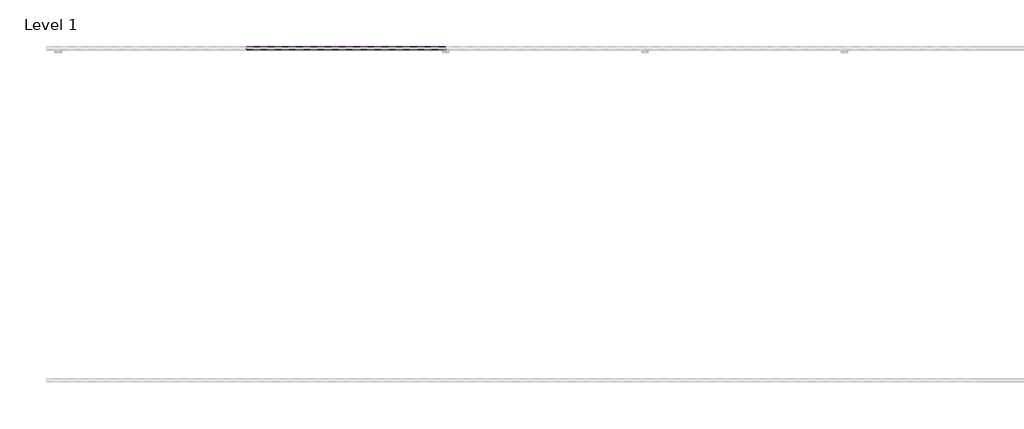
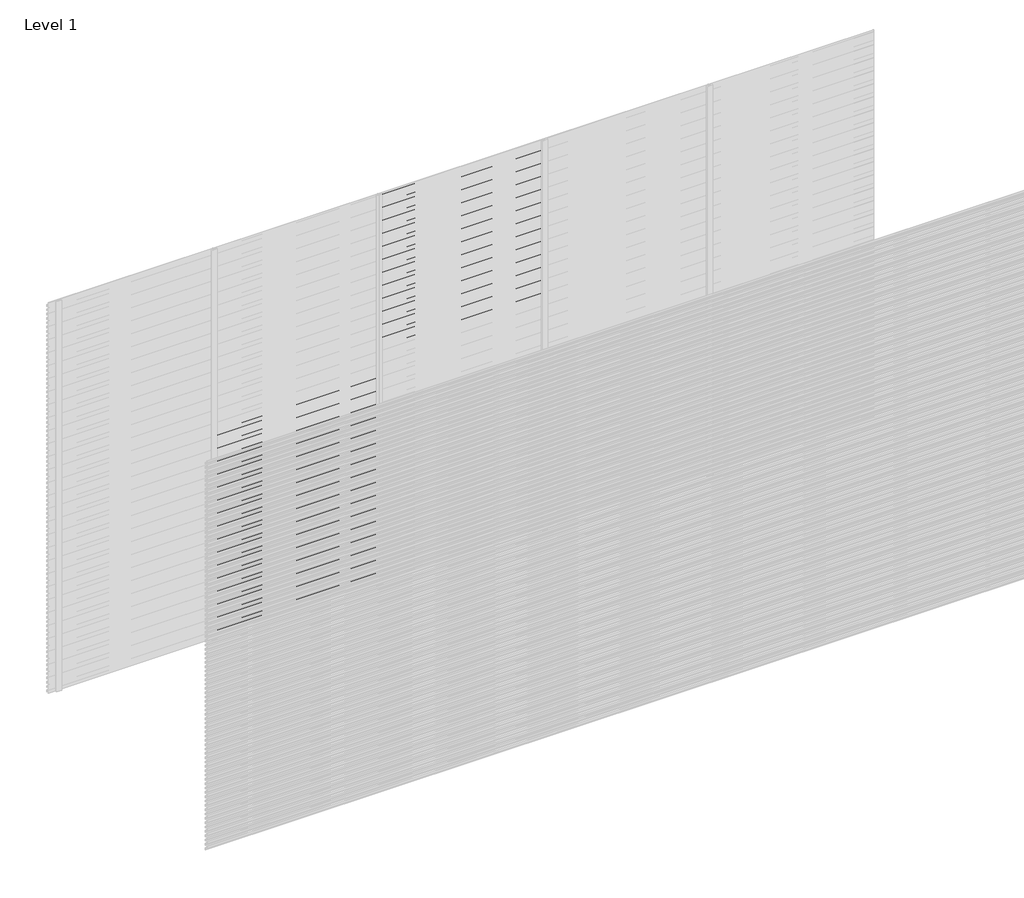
# One storey, part 56 of 507: 84 proxies.
"""IFC4 building model written with IfcOpenShell, lengths in millimetres."""

import ifcopenshell
import ifcopenshell.guid

model = None  # the IFC model being written
_history = None  # IfcOwnerHistory: only IFC2X3 demands one
_inside = {}  # id of a spatial element -> (the spatial element, [elements in it])
_under = {}  # id of a project, library or spatial element -> (it, [spatial elements below it])
_declared = {}  # id of a project -> (the project, [libraries it declares])
_typed = {}  # id of a type object -> (the type object, [elements of that type])
_made_of = {}  # id of a material, layer set ... -> (it, [elements and type objects made of it])


def new_model(schema):
    """Start an empty IFC model of exactly this schema.

    Asked for "IFC4X3", IfcOpenShell would pick the latest addendum, in which some entities
    have other attributes; the version numbers below select the first issue.
    IFC2X3 requires an IfcOwnerHistory on every rooted entity: one is made here for all.
    """
    global model, _history
    if schema == "IFC4X3":
        model = ifcopenshell.file(schema_version=(4, 3, 0, 0))
    else:
        model = ifcopenshell.file(schema=schema)
    _inside.clear()
    _under.clear()
    _declared.clear()
    _typed.clear()
    _made_of.clear()
    _history = None
    if model.schema == "IFC2X3":
        org = make("IfcOrganization", Name="unknown")
        user = make(
            "IfcPersonAndOrganization",
            ThePerson=make("IfcPerson", FamilyName="unknown"),
            TheOrganization=org,
        )
        app = make(
            "IfcApplication",
            ApplicationDeveloper=org,
            Version="unknown",
            ApplicationFullName="unknown",
            ApplicationIdentifier="unknown",
        )
        _history = make(
            "IfcOwnerHistory",
            OwningUser=user,
            OwningApplication=app,
            ChangeAction="ADDED",
            CreationDate=0,
        )
    return model


def make(cls, **values):
    """One entity of the class cls with the attributes given. An attribute that is None is left unset."""
    return model.create_entity(
        cls, **{name: value for name, value in values.items() if value is not None}
    )


def rooted(cls, **values):
    """An entity with a GlobalId (a new one), such as an element, a storey or a relation."""
    return make(cls, GlobalId=ifcopenshell.guid.new(), OwnerHistory=_history, **values)


def si_unit(unit_type, name, prefix=None):
    """IfcSIUnit, for example si_unit("LENGTHUNIT", "METRE", prefix="MILLI")."""
    return make("IfcSIUnit", UnitType=unit_type, Prefix=prefix, Name=name)


def assignment(units):
    """IfcUnitAssignment: the units of a project."""
    return None if units is None else make("IfcUnitAssignment", Units=units)


def point(xyz):
    """IfcCartesianPoint."""
    return None if xyz is None else make("IfcCartesianPoint", Coordinates=xyz)


def direction(xyz):
    """IfcDirection."""
    return None if xyz is None else make("IfcDirection", DirectionRatios=xyz)


def frame(location, z_axis=None, x_axis=None):
    """IfcAxis2Placement3D, a coordinate frame: its origin and axes. An axis left out is left unset."""
    return make(
        "IfcAxis2Placement3D",
        Location=point(location),
        Axis=direction(z_axis),
        RefDirection=direction(x_axis),
    )


def origin():
    """The frame at (0, 0, 0) with its axes left unset."""
    return frame((0.0, 0.0, 0.0))


def place(relative_to, where):
    """IfcLocalPlacement: puts the frame where relative to a parent placement (None: the world)."""
    return make(
        "IfcLocalPlacement", PlacementRelTo=relative_to, RelativePlacement=where
    )


def context(
    kind, dimensions, precision=None, world=None, true_north=None, identifier=None
):
    """IfcGeometricRepresentationContext, for example the 3D "Model" context."""
    return make(
        "IfcGeometricRepresentationContext",
        ContextIdentifier=identifier,
        ContextType=kind,
        CoordinateSpaceDimension=dimensions,
        Precision=precision,
        WorldCoordinateSystem=world,
        TrueNorth=true_north,
    )


def project(units=None, contexts=None):
    """IfcProject with its units and contexts."""
    return rooted(
        "IfcProject",
        Name="project",
        RepresentationContexts=contexts,
        UnitsInContext=assignment(units),
    )


def spatial(cls, under=None, at=None, **own):
    """A site, building, storey or space (cls), placed at a placement, below another one or the project."""
    s = rooted(cls, ObjectPlacement=at, **own)
    if under is not None:
        _under.setdefault(under.id(), (under, []))[1].append(s)
    return s


def polyline(points):
    """IfcPolyline through the points."""
    return make("IfcPolyline", Points=[point(p) for p in points])


def outline(outer, holes=None, kind="AREA"):
    """IfcArbitraryClosedProfileDef: a profile drawn as a closed curve; with holes, ...WithVoids."""
    if holes is None:
        return make("IfcArbitraryClosedProfileDef", ProfileType=kind, OuterCurve=outer)
    return make(
        "IfcArbitraryProfileDefWithVoids",
        ProfileType=kind,
        OuterCurve=outer,
        InnerCurves=holes,
    )


def extrude(swept, where, along, depth):
    """IfcExtrudedAreaSolid: the profile swept, set in the frame where, extruded along a direction by depth."""
    return make(
        "IfcExtrudedAreaSolid",
        SweptArea=swept,
        Position=where,
        ExtrudedDirection=direction(along),
        Depth=depth,
    )


def shape(context_of_items, identifier, shape_type, items):
    """IfcShapeRepresentation: the items that make up one representation, for example the "Body"."""
    return make(
        "IfcShapeRepresentation",
        ContextOfItems=context_of_items,
        RepresentationIdentifier=identifier,
        RepresentationType=shape_type,
        Items=items,
    )


def made_of(thing, what):
    """Note that an element or type object is made of a material, layer set ...; save() writes the relation."""
    if what is not None:
        _made_of.setdefault(what.id(), (what, []))[1].append(thing)
    return thing


def element(
    cls,
    number,
    at=None,
    inside=None,
    cuts=None,
    type_object=None,
    material=None,
    context=None,
    identifier="Body",
    shape_type=None,
    held_by="IfcProductDefinitionShape",
    body=None,
    shapes=None,
    **own,
):
    """One element of the class cls, such as IfcWall. Its Tag is "e" and its number.

    at: its placement. inside: the storey or other place that contains it. cuts: it is an
    opening in that element (IfcRelVoidsElement). A single representation is given by context,
    identifier, shape_type and body (its items); several are given by shapes. held_by: the class
    of the entity that holds the representations. save() writes the other relations.
    """
    e = rooted(cls, Tag="e%d" % number, ObjectPlacement=at, **own)
    if body is not None:
        shapes = [shape(context, identifier, shape_type, body)]
    if shapes is not None:
        e.Representation = make(held_by, Representations=shapes)
    if inside is not None:
        _inside.setdefault(inside.id(), (inside, []))[1].append(e)
    if cuts is not None:
        rooted(
            "IfcRelVoidsElement", RelatingBuildingElement=cuts, RelatedOpeningElement=e
        )
    if type_object is not None:
        _typed.setdefault(type_object.id(), (type_object, []))[1].append(e)
    return made_of(e, material)


def aggregate(whole, parts):
    """IfcRelAggregates: a whole, such as a stair, and the parts it consists of."""
    return rooted("IfcRelAggregates", RelatingObject=whole, RelatedObjects=parts)


def save(model, path):
    """Write the relations noted so far, then the file.

    IfcRelAggregates (storeys below a building ...), IfcRelContainedInSpatialStructure (elements
    in a storey), IfcRelDefinesByType, IfcRelAssociatesMaterial and IfcRelDeclares: one each for
    every whole, place, type object, material and project.
    """
    for whole, parts in _under.values():
        aggregate(whole, parts)
    for where, things in _inside.values():
        rooted(
            "IfcRelContainedInSpatialStructure",
            RelatedElements=things,
            RelatingStructure=where,
        )
    for kind, things in _typed.values():
        rooted("IfcRelDefinesByType", RelatedObjects=things, RelatingType=kind)
    for what, things in _made_of.values():
        rooted("IfcRelAssociatesMaterial", RelatedObjects=things, RelatingMaterial=what)
    for by, libraries in _declared.values():
        rooted("IfcRelDeclares", RelatingContext=by, RelatedDefinitions=libraries)
    model.write(path)


model = new_model("IFC4")

# Units and contexts
model_context = context("Model", 3, world=origin())
ifc_project = project(units=[si_unit("LENGTHUNIT", "METRE", prefix="MILLI")], contexts=[model_context])

# Site, building, storey
site = spatial("IfcSite", under=ifc_project)
building = spatial("IfcBuilding", under=site)
storey = spatial("IfcBuildingStorey", under=building, Name="Level 1", Elevation=0.0)

# Proxies
placement = place(None, origin())
element("IfcBuildingElementProxy", 1, Name="Wall Sweeps", at=placement, inside=storey, context=model_context, shape_type="SweptSolid", body=[
    extrude(outline(polyline([(44003.4540136, 1574.4), (44003.4540136, 1560.9), (44002.2040136, 1561.6216933), (44002.2040136, 1573.6782281), (43983.0540136, 1584.7345698), (43983.0540136, 1598.4), (43984.3040136, 1598.4), (43984.3040136, 1585.4562577), (44003.4540136, 1574.4)])), frame((46166.6208099, 0.0, 0.0), z_axis=(1.0, 0.0, 0.0), x_axis=(0.0, 1.0, 0.0)), (0.0, 0.0, 1.0), 1199.9999999),
])
element("IfcBuildingElementProxy", 2, Name="Wall Sweeps", at=placement, inside=storey, context=model_context, shape_type="SweptSolid", body=[
    extrude(outline(polyline([(44003.4540136, 1541.1), (44003.4540136, 1527.6), (44002.2040136, 1528.3216933), (44002.2040136, 1540.3782281), (43983.0540136, 1551.4345698), (43983.0540136, 1565.1), (43984.3040136, 1565.1), (43984.3040136, 1552.1562577), (44003.4540136, 1541.1)])), frame((46166.6208099, 0.0, 0.0), z_axis=(1.0, 0.0, 0.0), x_axis=(0.0, 1.0, 0.0)), (0.0, 0.0, 1.0), 1199.9999999),
])
element("IfcBuildingElementProxy", 3, Name="Wall Sweeps", at=placement, inside=storey, context=model_context, shape_type="SweptSolid", body=[
    extrude(outline(polyline([(44003.4540136, 1507.8), (44003.4540136, 1494.3), (44002.2040136, 1495.0216933), (44002.2040136, 1507.0782281), (43983.0540136, 1518.1345698), (43983.0540136, 1531.8), (43984.3040136, 1531.8), (43984.3040136, 1518.8562577), (44003.4540136, 1507.8)])), frame((46166.6208099, 0.0, 0.0), z_axis=(1.0, 0.0, 0.0), x_axis=(0.0, 1.0, 0.0)), (0.0, 0.0, 1.0), 1199.9999999),
])
element("IfcBuildingElementProxy", 4, Name="Wall Sweeps", at=placement, inside=storey, context=model_context, shape_type="SweptSolid", body=[
    extrude(outline(polyline([(44003.4540136, 1474.5), (44003.4540136, 1461.0), (44002.2040136, 1461.7216933), (44002.2040136, 1473.7782281), (43983.0540136, 1484.8345698), (43983.0540136, 1498.5), (43984.3040136, 1498.5), (43984.3040136, 1485.5562577), (44003.4540136, 1474.5)])), frame((46166.6208099, 0.0, 0.0), z_axis=(1.0, 0.0, 0.0), x_axis=(0.0, 1.0, 0.0)), (0.0, 0.0, 1.0), 1199.9999999),
])
element("IfcBuildingElementProxy", 5, Name="Wall Sweeps", at=placement, inside=storey, context=model_context, shape_type="SweptSolid", body=[
    extrude(outline(polyline([(44003.4540136, 1441.2), (44003.4540136, 1427.7), (44002.2040136, 1428.4216933), (44002.2040136, 1440.4782281), (43983.0540136, 1451.5345698), (43983.0540136, 1465.2), (43984.3040136, 1465.2), (43984.3040136, 1452.2562577), (44003.4540136, 1441.2)])), frame((46166.6208099, 0.0, 0.0), z_axis=(1.0, 0.0, 0.0), x_axis=(0.0, 1.0, 0.0)), (0.0, 0.0, 1.0), 1199.9999999),
])
element("IfcBuildingElementProxy", 6, Name="Wall Sweeps", at=placement, inside=storey, context=model_context, shape_type="SweptSolid", body=[
    extrude(outline(polyline([(44003.4540136, 1407.9), (44003.4540136, 1394.4), (44002.2040136, 1395.1216933), (44002.2040136, 1407.1782281), (43983.0540136, 1418.2345698), (43983.0540136, 1431.9), (43984.3040136, 1431.9), (43984.3040136, 1418.9562577), (44003.4540136, 1407.9)])), frame((46166.6208099, 0.0, 0.0), z_axis=(1.0, 0.0, 0.0), x_axis=(0.0, 1.0, 0.0)), (0.0, 0.0, 1.0), 1199.9999999),
])
element("IfcBuildingElementProxy", 7, Name="Wall Sweeps", at=placement, inside=storey, context=model_context, shape_type="SweptSolid", body=[
    extrude(outline(polyline([(44003.4540136, 1374.6), (44003.4540136, 1361.1), (44002.2040136, 1361.8216933), (44002.2040136, 1373.8782281), (43983.0540136, 1384.9345698), (43983.0540136, 1398.6), (43984.3040136, 1398.6), (43984.3040136, 1385.6562577), (44003.4540136, 1374.6)])), frame((46166.6208099, 0.0, 0.0), z_axis=(1.0, 0.0, 0.0), x_axis=(0.0, 1.0, 0.0)), (0.0, 0.0, 1.0), 1199.9999999),
])
element("IfcBuildingElementProxy", 8, Name="Wall Sweeps", at=placement, inside=storey, context=model_context, shape_type="SweptSolid", body=[
    extrude(outline(polyline([(44003.4540136, 1341.3), (44003.4540136, 1327.8), (44002.2040136, 1328.5216933), (44002.2040136, 1340.5782281), (43983.0540136, 1351.6345698), (43983.0540136, 1365.3), (43984.3040136, 1365.3), (43984.3040136, 1352.3562577), (44003.4540136, 1341.3)])), frame((46166.6208099, 0.0, 0.0), z_axis=(1.0, 0.0, 0.0), x_axis=(0.0, 1.0, 0.0)), (0.0, 0.0, 1.0), 1199.9999999),
])
element("IfcBuildingElementProxy", 9, Name="Wall Sweeps", at=placement, inside=storey, context=model_context, shape_type="SweptSolid", body=[
    extrude(outline(polyline([(44003.4540136, 1308.0), (44003.4540136, 1294.5), (44002.2040136, 1295.2216933), (44002.2040136, 1307.2782281), (43983.0540136, 1318.3345698), (43983.0540136, 1332.0), (43984.3040136, 1332.0), (43984.3040136, 1319.0562577), (44003.4540136, 1308.0)])), frame((46166.6208099, 0.0, 0.0), z_axis=(1.0, 0.0, 0.0), x_axis=(0.0, 1.0, 0.0)), (0.0, 0.0, 1.0), 1199.9999999),
])
element("IfcBuildingElementProxy", 10, Name="Wall Sweeps", at=placement, inside=storey, context=model_context, shape_type="SweptSolid", body=[
    extrude(outline(polyline([(44003.4540136, 1274.7), (44003.4540136, 1261.2), (44002.2040136, 1261.9216933), (44002.2040136, 1273.9782281), (43983.0540136, 1285.0345698), (43983.0540136, 1298.7), (43984.3040136, 1298.7), (43984.3040136, 1285.7562577), (44003.4540136, 1274.7)])), frame((46166.6208099, 0.0, 0.0), z_axis=(1.0, 0.0, 0.0), x_axis=(0.0, 1.0, 0.0)), (0.0, 0.0, 1.0), 1199.9999999),
])
element("IfcBuildingElementProxy", 11, Name="Wall Sweeps", at=placement, inside=storey, context=model_context, shape_type="SweptSolid", body=[
    extrude(outline(polyline([(44003.4540136, 1241.4), (44003.4540136, 1227.9), (44002.2040136, 1228.6216933), (44002.2040136, 1240.6782281), (43983.0540136, 1251.7345698), (43983.0540136, 1265.4), (43984.3040136, 1265.4), (43984.3040136, 1252.4562577), (44003.4540136, 1241.4)])), frame((46166.6208099, 0.0, 0.0), z_axis=(1.0, 0.0, 0.0), x_axis=(0.0, 1.0, 0.0)), (0.0, 0.0, 1.0), 1199.9999999),
])
element("IfcBuildingElementProxy", 12, Name="Wall Sweeps", at=placement, inside=storey, context=model_context, shape_type="SweptSolid", body=[
    extrude(outline(polyline([(44003.4540136, 1208.1), (44003.4540136, 1194.6), (44002.2040136, 1195.3216933), (44002.2040136, 1207.3782281), (43983.0540136, 1218.4345698), (43983.0540136, 1232.1), (43984.3040136, 1232.1), (43984.3040136, 1219.1562577), (44003.4540136, 1208.1)])), frame((46166.6208099, 0.0, 0.0), z_axis=(1.0, 0.0, 0.0), x_axis=(0.0, 1.0, 0.0)), (0.0, 0.0, 1.0), 1199.9999999),
])
element("IfcBuildingElementProxy", 13, Name="Wall Sweeps", at=placement, inside=storey, context=model_context, shape_type="SweptSolid", body=[
    extrude(outline(polyline([(44003.4540136, 1174.8), (44003.4540136, 1161.3), (44002.2040136, 1162.0216933), (44002.2040136, 1174.0782281), (43983.0540136, 1185.1345698), (43983.0540136, 1198.8), (43984.3040136, 1198.8), (43984.3040136, 1185.8562577), (44003.4540136, 1174.8)])), frame((46166.6208099, 0.0, 0.0), z_axis=(1.0, 0.0, 0.0), x_axis=(0.0, 1.0, 0.0)), (0.0, 0.0, 1.0), 1199.9999999),
])
element("IfcBuildingElementProxy", 14, Name="Wall Sweeps", at=placement, inside=storey, context=model_context, shape_type="SweptSolid", body=[
    extrude(outline(polyline([(44003.4540136, 1141.5), (44003.4540136, 1128.0), (44002.2040136, 1128.7216933), (44002.2040136, 1140.7782281), (43983.0540136, 1151.8345698), (43983.0540136, 1165.5), (43984.3040136, 1165.5), (43984.3040136, 1152.5562577), (44003.4540136, 1141.5)])), frame((46166.6208099, 0.0, 0.0), z_axis=(1.0, 0.0, 0.0), x_axis=(0.0, 1.0, 0.0)), (0.0, 0.0, 1.0), 1199.9999999),
])
element("IfcBuildingElementProxy", 15, Name="Wall Sweeps", at=placement, inside=storey, context=model_context, shape_type="SweptSolid", body=[
    extrude(outline(polyline([(44003.4540136, 1108.2), (44003.4540136, 1094.7), (44002.2040136, 1095.4216933), (44002.2040136, 1107.4782281), (43983.0540136, 1118.5345698), (43983.0540136, 1132.2), (43984.3040136, 1132.2), (43984.3040136, 1119.2562577), (44003.4540136, 1108.2)])), frame((46166.6208099, 0.0, 0.0), z_axis=(1.0, 0.0, 0.0), x_axis=(0.0, 1.0, 0.0)), (0.0, 0.0, 1.0), 1199.9999999),
])
element("IfcBuildingElementProxy", 16, Name="Wall Sweeps", at=placement, inside=storey, context=model_context, shape_type="SweptSolid", body=[
    extrude(outline(polyline([(44003.4540136, 1074.9), (44003.4540136, 1061.4), (44002.2040136, 1062.1216933), (44002.2040136, 1074.1782281), (43983.0540136, 1085.2345698), (43983.0540136, 1098.9), (43984.3040136, 1098.9), (43984.3040136, 1085.9562577), (44003.4540136, 1074.9)])), frame((46166.6208099, 0.0, 0.0), z_axis=(1.0, 0.0, 0.0), x_axis=(0.0, 1.0, 0.0)), (0.0, 0.0, 1.0), 1199.9999999),
])
element("IfcBuildingElementProxy", 17, Name="Wall Sweeps", at=placement, inside=storey, context=model_context, shape_type="SweptSolid", body=[
    extrude(outline(polyline([(44003.4540136, 1041.6), (44003.4540136, 1028.1), (44002.2040136, 1028.8216933), (44002.2040136, 1040.8782281), (43983.0540136, 1051.9345698), (43983.0540136, 1065.6), (43984.3040136, 1065.6), (43984.3040136, 1052.6562577), (44003.4540136, 1041.6)])), frame((46166.6208099, 0.0, 0.0), z_axis=(1.0, 0.0, 0.0), x_axis=(0.0, 1.0, 0.0)), (0.0, 0.0, 1.0), 1199.9999999),
])
element("IfcBuildingElementProxy", 18, Name="Wall Sweeps", at=placement, inside=storey, context=model_context, shape_type="SweptSolid", body=[
    extrude(outline(polyline([(44003.4540136, 1008.3), (44003.4540136, 994.8), (44002.2040136, 995.5216933), (44002.2040136, 1007.5782281), (43983.0540136, 1018.6345698), (43983.0540136, 1032.3), (43984.3040136, 1032.3), (43984.3040136, 1019.3562577), (44003.4540136, 1008.3)])), frame((46166.6208099, 0.0, 0.0), z_axis=(1.0, 0.0, 0.0), x_axis=(0.0, 1.0, 0.0)), (0.0, 0.0, 1.0), 1199.9999999),
])
element("IfcBuildingElementProxy", 19, Name="Wall Sweeps", at=placement, inside=storey, context=model_context, shape_type="SweptSolid", body=[
    extrude(outline(polyline([(44003.4540136, 975.0), (44003.4540136, 961.5), (44002.2040136, 962.2216933), (44002.2040136, 974.2782281), (43983.0540136, 985.3345698), (43983.0540136, 999.0), (43984.3040136, 999.0), (43984.3040136, 986.0562577), (44003.4540136, 975.0)])), frame((46166.6208099, 0.0, 0.0), z_axis=(1.0, 0.0, 0.0), x_axis=(0.0, 1.0, 0.0)), (0.0, 0.0, 1.0), 1199.9999999),
])
element("IfcBuildingElementProxy", 20, Name="Wall Sweeps", at=placement, inside=storey, context=model_context, shape_type="SweptSolid", body=[
    extrude(outline(polyline([(44003.4540136, 941.7), (44003.4540136, 928.2), (44002.2040136, 928.9216933), (44002.2040136, 940.9782281), (43983.0540136, 952.0345698), (43983.0540136, 965.7), (43984.3040136, 965.7), (43984.3040136, 952.7562577), (44003.4540136, 941.7)])), frame((46166.6208099, 0.0, 0.0), z_axis=(1.0, 0.0, 0.0), x_axis=(0.0, 1.0, 0.0)), (0.0, 0.0, 1.0), 1199.9999999),
])
element("IfcBuildingElementProxy", 21, Name="Wall Sweeps", at=placement, inside=storey, context=model_context, shape_type="SweptSolid", body=[
    extrude(outline(polyline([(44003.4540136, 908.4), (44003.4540136, 894.9), (44002.2040136, 895.6216933), (44002.2040136, 907.6782281), (43983.0540136, 918.7345698), (43983.0540136, 932.4), (43984.3040136, 932.4), (43984.3040136, 919.4562577), (44003.4540136, 908.4)])), frame((46166.6208099, 0.0, 0.0), z_axis=(1.0, 0.0, 0.0), x_axis=(0.0, 1.0, 0.0)), (0.0, 0.0, 1.0), 1199.9999999),
])
element("IfcBuildingElementProxy", 22, Name="Wall Sweeps", at=placement, inside=storey, context=model_context, shape_type="SweptSolid", body=[
    extrude(outline(polyline([(44003.4540136, 875.1), (44003.4540136, 861.6), (44002.2040136, 862.3216933), (44002.2040136, 874.3782281), (43983.0540136, 885.4345698), (43983.0540136, 899.1), (43984.3040136, 899.1), (43984.3040136, 886.1562577), (44003.4540136, 875.1)])), frame((46166.6208099, 0.0, 0.0), z_axis=(1.0, 0.0, 0.0), x_axis=(0.0, 1.0, 0.0)), (0.0, 0.0, 1.0), 1199.9999999),
])
element("IfcBuildingElementProxy", 23, Name="Wall Sweeps", at=placement, inside=storey, context=model_context, shape_type="SweptSolid", body=[
    extrude(outline(polyline([(44003.4540136, 841.8), (44003.4540136, 828.3), (44002.2040136, 829.0216933), (44002.2040136, 841.0782281), (43983.0540136, 852.1345698), (43983.0540136, 865.8), (43984.3040136, 865.8), (43984.3040136, 852.8562577), (44003.4540136, 841.8)])), frame((46166.6208099, 0.0, 0.0), z_axis=(1.0, 0.0, 0.0), x_axis=(0.0, 1.0, 0.0)), (0.0, 0.0, 1.0), 1199.9999999),
])
element("IfcBuildingElementProxy", 24, Name="Wall Sweeps", at=placement, inside=storey, context=model_context, shape_type="SweptSolid", body=[
    extrude(outline(polyline([(44003.4540136, 808.5), (44003.4540136, 795.0), (44002.2040136, 795.7216933), (44002.2040136, 807.7782281), (43983.0540136, 818.8345698), (43983.0540136, 832.5), (43984.3040136, 832.5), (43984.3040136, 819.5562577), (44003.4540136, 808.5)])), frame((46166.6208099, 0.0, 0.0), z_axis=(1.0, 0.0, 0.0), x_axis=(0.0, 1.0, 0.0)), (0.0, 0.0, 1.0), 1199.9999999),
])
element("IfcBuildingElementProxy", 25, Name="Wall Sweeps", at=placement, inside=storey, context=model_context, shape_type="SweptSolid", body=[
    extrude(outline(polyline([(44003.4540136, 775.2), (44003.4540136, 761.7), (44002.2040136, 762.4216933), (44002.2040136, 774.4782281), (43983.0540136, 785.5345698), (43983.0540136, 799.2), (43984.3040136, 799.2), (43984.3040136, 786.2562577), (44003.4540136, 775.2)])), frame((46166.6208099, 0.0, 0.0), z_axis=(1.0, 0.0, 0.0), x_axis=(0.0, 1.0, 0.0)), (0.0, 0.0, 1.0), 1199.9999999),
])
element("IfcBuildingElementProxy", 26, Name="Wall Sweeps", at=placement, inside=storey, context=model_context, shape_type="SweptSolid", body=[
    extrude(outline(polyline([(44003.4540136, 741.9), (44003.4540136, 728.4), (44002.2040136, 729.1216933), (44002.2040136, 741.1782281), (43983.0540136, 752.2345698), (43983.0540136, 765.9), (43984.3040136, 765.9), (43984.3040136, 752.9562577), (44003.4540136, 741.9)])), frame((46166.6208099, 0.0, 0.0), z_axis=(1.0, 0.0, 0.0), x_axis=(0.0, 1.0, 0.0)), (0.0, 0.0, 1.0), 1199.9999999),
])
element("IfcBuildingElementProxy", 27, Name="Wall Sweeps", at=placement, inside=storey, context=model_context, shape_type="SweptSolid", body=[
    extrude(outline(polyline([(44003.4540136, 708.6), (44003.4540136, 695.1), (44002.2040136, 695.8216933), (44002.2040136, 707.8782281), (43983.0540136, 718.9345698), (43983.0540136, 732.6), (43984.3040136, 732.6), (43984.3040136, 719.6562577), (44003.4540136, 708.6)])), frame((46166.6208099, 0.0, 0.0), z_axis=(1.0, 0.0, 0.0), x_axis=(0.0, 1.0, 0.0)), (0.0, 0.0, 1.0), 1199.9999999),
])
element("IfcBuildingElementProxy", 28, Name="Wall Sweeps", at=placement, inside=storey, context=model_context, shape_type="SweptSolid", body=[
    extrude(outline(polyline([(44003.4540136, 675.3), (44003.4540136, 661.8), (44002.2040136, 662.5216933), (44002.2040136, 674.5782281), (43983.0540136, 685.6345698), (43983.0540136, 699.3), (43984.3040136, 699.3), (43984.3040136, 686.3562577), (44003.4540136, 675.3)])), frame((46166.6208099, 0.0, 0.0), z_axis=(1.0, 0.0, 0.0), x_axis=(0.0, 1.0, 0.0)), (0.0, 0.0, 1.0), 1199.9999999),
])
element("IfcBuildingElementProxy", 29, Name="Wall Sweeps", at=placement, inside=storey, context=model_context, shape_type="SweptSolid", body=[
    extrude(outline(polyline([(44003.4540136, 642.0), (44003.4540136, 628.5), (44002.2040136, 629.2216933), (44002.2040136, 641.2782281), (43983.0540136, 652.3345698), (43983.0540136, 666.0), (43984.3040136, 666.0), (43984.3040136, 653.0562577), (44003.4540136, 642.0)])), frame((46166.6208099, 0.0, 0.0), z_axis=(1.0, 0.0, 0.0), x_axis=(0.0, 1.0, 0.0)), (0.0, 0.0, 1.0), 1199.9999999),
])
element("IfcBuildingElementProxy", 30, Name="Wall Sweeps", at=placement, inside=storey, context=model_context, shape_type="SweptSolid", body=[
    extrude(outline(polyline([(44003.4540136, 608.7), (44003.4540136, 595.2), (44002.2040136, 595.9216933), (44002.2040136, 607.9782281), (43983.0540136, 619.0345698), (43983.0540136, 632.7), (43984.3040136, 632.7), (43984.3040136, 619.7562577), (44003.4540136, 608.7)])), frame((46166.6208099, 0.0, 0.0), z_axis=(1.0, 0.0, 0.0), x_axis=(0.0, 1.0, 0.0)), (0.0, 0.0, 1.0), 1199.9999999),
])
element("IfcBuildingElementProxy", 31, Name="Wall Sweeps", at=placement, inside=storey, context=model_context, shape_type="SweptSolid", body=[
    extrude(outline(polyline([(44003.4540136, 575.4), (44003.4540136, 561.9), (44002.2040136, 562.6216933), (44002.2040136, 574.6782281), (43983.0540136, 585.7345698), (43983.0540136, 599.4), (43984.3040136, 599.4), (43984.3040136, 586.4562577), (44003.4540136, 575.4)])), frame((46166.6208099, 0.0, 0.0), z_axis=(1.0, 0.0, 0.0), x_axis=(0.0, 1.0, 0.0)), (0.0, 0.0, 1.0), 1199.9999999),
])
element("IfcBuildingElementProxy", 32, Name="Wall Sweeps", at=placement, inside=storey, context=model_context, shape_type="SweptSolid", body=[
    extrude(outline(polyline([(44003.4540136, 542.1), (44003.4540136, 528.6), (44002.2040136, 529.3216933), (44002.2040136, 541.3782281), (43983.0540136, 552.4345698), (43983.0540136, 566.1), (43984.3040136, 566.1), (43984.3040136, 553.1562577), (44003.4540136, 542.1)])), frame((46166.6208099, 0.0, 0.0), z_axis=(1.0, 0.0, 0.0), x_axis=(0.0, 1.0, 0.0)), (0.0, 0.0, 1.0), 1199.9999999),
])
element("IfcBuildingElementProxy", 33, Name="Wall Sweeps", at=placement, inside=storey, context=model_context, shape_type="SweptSolid", body=[
    extrude(outline(polyline([(44003.4540136, 508.8), (44003.4540136, 495.3), (44002.2040136, 496.0216933), (44002.2040136, 508.0782281), (43983.0540136, 519.1345698), (43983.0540136, 532.8), (43984.3040136, 532.8), (43984.3040136, 519.8562577), (44003.4540136, 508.8)])), frame((46166.6208099, 0.0, 0.0), z_axis=(1.0, 0.0, 0.0), x_axis=(0.0, 1.0, 0.0)), (0.0, 0.0, 1.0), 1199.9999999),
])
element("IfcBuildingElementProxy", 34, Name="Wall Sweeps", at=placement, inside=storey, context=model_context, shape_type="SweptSolid", body=[
    extrude(outline(polyline([(44003.4540136, 475.5), (44003.4540136, 462.0), (44002.2040136, 462.7216933), (44002.2040136, 474.7782281), (43983.0540136, 485.8345698), (43983.0540136, 499.5), (43984.3040136, 499.5), (43984.3040136, 486.5562577), (44003.4540136, 475.5)])), frame((46166.6208099, 0.0, 0.0), z_axis=(1.0, 0.0, 0.0), x_axis=(0.0, 1.0, 0.0)), (0.0, 0.0, 1.0), 1199.9999999),
])
element("IfcBuildingElementProxy", 35, Name="Wall Sweeps", at=placement, inside=storey, context=model_context, shape_type="SweptSolid", body=[
    extrude(outline(polyline([(44003.4540136, 442.2), (44003.4540136, 428.7), (44002.2040136, 429.4216933), (44002.2040136, 441.4782281), (43983.0540136, 452.5345698), (43983.0540136, 466.2), (43984.3040136, 466.2), (43984.3040136, 453.2562577), (44003.4540136, 442.2)])), frame((46166.6208099, 0.0, 0.0), z_axis=(1.0, 0.0, 0.0), x_axis=(0.0, 1.0, 0.0)), (0.0, 0.0, 1.0), 1199.9999999),
])
element("IfcBuildingElementProxy", 36, Name="Wall Sweeps", at=placement, inside=storey, context=model_context, shape_type="SweptSolid", body=[
    extrude(outline(polyline([(44003.4540136, 408.9), (44003.4540136, 395.4), (44002.2040136, 396.1216933), (44002.2040136, 408.1782281), (43983.0540136, 419.2345698), (43983.0540136, 432.9), (43984.3040136, 432.9), (43984.3040136, 419.9562577), (44003.4540136, 408.9)])), frame((46166.6208099, 0.0, 0.0), z_axis=(1.0, 0.0, 0.0), x_axis=(0.0, 1.0, 0.0)), (0.0, 0.0, 1.0), 1199.9999999),
])
element("IfcBuildingElementProxy", 37, Name="Wall Sweeps", at=placement, inside=storey, context=model_context, shape_type="SweptSolid", body=[
    extrude(outline(polyline([(44003.4540136, 375.6), (44003.4540136, 362.1), (44002.2040136, 362.8216933), (44002.2040136, 374.8782281), (43983.0540136, 385.9345698), (43983.0540136, 399.6), (43984.3040136, 399.6), (43984.3040136, 386.6562577), (44003.4540136, 375.6)])), frame((46166.6208099, 0.0, 0.0), z_axis=(1.0, 0.0, 0.0), x_axis=(0.0, 1.0, 0.0)), (0.0, 0.0, 1.0), 1199.9999999),
])
element("IfcBuildingElementProxy", 38, Name="Wall Sweeps", at=placement, inside=storey, context=model_context, shape_type="SweptSolid", body=[
    extrude(outline(polyline([(44003.4540136, 342.3), (44003.4540136, 328.8), (44002.2040136, 329.5216933), (44002.2040136, 341.5782281), (43983.0540136, 352.6345698), (43983.0540136, 366.3), (43984.3040136, 366.3), (43984.3040136, 353.3562577), (44003.4540136, 342.3)])), frame((46166.6208099, 0.0, 0.0), z_axis=(1.0, 0.0, 0.0), x_axis=(0.0, 1.0, 0.0)), (0.0, 0.0, 1.0), 1199.9999999),
])
element("IfcBuildingElementProxy", 39, Name="Wall Sweeps", at=placement, inside=storey, context=model_context, shape_type="SweptSolid", body=[
    extrude(outline(polyline([(44003.4540136, 309.0), (44003.4540136, 295.5), (44002.2040136, 296.2216933), (44002.2040136, 308.2782281), (43983.0540136, 319.3345698), (43983.0540136, 333.0), (43984.3040136, 333.0), (43984.3040136, 320.0562577), (44003.4540136, 309.0)])), frame((46166.6208099, 0.0, 0.0), z_axis=(1.0, 0.0, 0.0), x_axis=(0.0, 1.0, 0.0)), (0.0, 0.0, 1.0), 1199.9999999),
])
element("IfcBuildingElementProxy", 40, Name="Wall Sweeps", at=placement, inside=storey, context=model_context, shape_type="SweptSolid", body=[
    extrude(outline(polyline([(44003.4540136, 275.7), (44003.4540136, 262.2), (44002.2040136, 262.9216933), (44002.2040136, 274.9782281), (43983.0540136, 286.0345698), (43983.0540136, 299.7), (43984.3040136, 299.7), (43984.3040136, 286.7562577), (44003.4540136, 275.7)])), frame((46166.6208099, 0.0, 0.0), z_axis=(1.0, 0.0, 0.0), x_axis=(0.0, 1.0, 0.0)), (0.0, 0.0, 1.0), 1199.9999999),
])
element("IfcBuildingElementProxy", 41, Name="Wall Sweeps", at=placement, inside=storey, context=model_context, shape_type="SweptSolid", body=[
    extrude(outline(polyline([(44003.4540136, 242.4), (44003.4540136, 228.9), (44002.2040136, 229.6216933), (44002.2040136, 241.6782281), (43983.0540136, 252.7345698), (43983.0540136, 266.4), (43984.3040136, 266.4), (43984.3040136, 253.4562577), (44003.4540136, 242.4)])), frame((46166.6208099, 0.0, 0.0), z_axis=(1.0, 0.0, 0.0), x_axis=(0.0, 1.0, 0.0)), (0.0, 0.0, 1.0), 1199.9999999),
])
element("IfcBuildingElementProxy", 42, Name="Wall Sweeps", at=placement, inside=storey, context=model_context, shape_type="SweptSolid", body=[
    extrude(outline(polyline([(44003.4540136, 209.1), (44003.4540136, 195.6), (44002.2040136, 196.3216933), (44002.2040136, 208.3782281), (43983.0540136, 219.4345698), (43983.0540136, 233.1), (43984.3040136, 233.1), (43984.3040136, 220.1562577), (44003.4540136, 209.1)])), frame((46166.6208099, 0.0, 0.0), z_axis=(1.0, 0.0, 0.0), x_axis=(0.0, 1.0, 0.0)), (0.0, 0.0, 1.0), 1199.9999999),
])
element("IfcBuildingElementProxy", 43, Name="Wall Sweeps", at=placement, inside=storey, context=model_context, shape_type="SweptSolid", body=[
    extrude(outline(polyline([(44003.4540136, 175.8), (44003.4540136, 162.3), (44002.2040136, 163.0216933), (44002.2040136, 175.0782281), (43983.0540136, 186.1345698), (43983.0540136, 199.8), (43984.3040136, 199.8), (43984.3040136, 186.8562577), (44003.4540136, 175.8)])), frame((46166.6208099, 0.0, 0.0), z_axis=(1.0, 0.0, 0.0), x_axis=(0.0, 1.0, 0.0)), (0.0, 0.0, 1.0), 1199.9999999),
])
element("IfcBuildingElementProxy", 44, Name="Wall Sweeps", at=placement, inside=storey, context=model_context, shape_type="SweptSolid", body=[
    extrude(outline(polyline([(44003.4540136, 142.5), (44003.4540136, 129.0), (44002.2040136, 129.7216933), (44002.2040136, 141.7782281), (43983.0540136, 152.8345698), (43983.0540136, 166.5), (43984.3040136, 166.5), (43984.3040136, 153.5562577), (44003.4540136, 142.5)])), frame((46166.6208099, 0.0, 0.0), z_axis=(1.0, 0.0, 0.0), x_axis=(0.0, 1.0, 0.0)), (0.0, 0.0, 1.0), 1199.9999999),
])
element("IfcBuildingElementProxy", 45, Name="Wall Sweeps", at=placement, inside=storey, context=model_context, shape_type="SweptSolid", body=[
    extrude(outline(polyline([(44003.4540136, 109.2), (44003.4540136, 95.7), (44002.2040136, 96.4216933), (44002.2040136, 108.4782281), (43983.0540136, 119.5345698), (43983.0540136, 133.2), (43984.3040136, 133.2), (43984.3040136, 120.2562577), (44003.4540136, 109.2)])), frame((46166.6208099, 0.0, 0.0), z_axis=(1.0, 0.0, 0.0), x_axis=(0.0, 1.0, 0.0)), (0.0, 0.0, 1.0), 1199.9999999),
])
element("IfcBuildingElementProxy", 46, Name="Wall Sweeps", at=placement, inside=storey, context=model_context, shape_type="SweptSolid", body=[
    extrude(outline(polyline([(44003.4540136, 75.9), (44003.4540136, 62.4), (44002.2040136, 63.1216933), (44002.2040136, 75.1782281), (43983.0540136, 86.2345698), (43983.0540136, 99.9), (43984.3040136, 99.9), (43984.3040136, 86.9562577), (44003.4540136, 75.9)])), frame((46166.6208099, 0.0, 0.0), z_axis=(1.0, 0.0, 0.0), x_axis=(0.0, 1.0, 0.0)), (0.0, 0.0, 1.0), 1199.9999999),
])
element("IfcBuildingElementProxy", 47, Name="Wall Sweeps", at=placement, inside=storey, context=model_context, shape_type="SweptSolid", body=[
    extrude(outline(polyline([(44003.4540136, 42.6), (44003.4540136, 29.1), (44002.2040136, 29.8216933), (44002.2040136, 41.8782281), (43983.0540136, 52.9345698), (43983.0540136, 66.6), (43984.3040136, 66.6), (43984.3040136, 53.6562577), (44003.4540136, 42.6)])), frame((46166.6208099, 0.0, 0.0), z_axis=(1.0, 0.0, 0.0), x_axis=(0.0, 1.0, 0.0)), (0.0, 0.0, 1.0), 1199.9999999),
])
element("IfcBuildingElementProxy", 48, Name="Wall Sweeps", at=placement, inside=storey, context=model_context, shape_type="SweptSolid", body=[
    extrude(outline(polyline([(44003.4540136, 9.3), (44003.4540136, -4.2), (44002.2040136, -3.4783067), (44002.2040136, 8.5782281), (43983.0540136, 19.6345698), (43983.0540136, 33.3), (43984.3040136, 33.3), (43984.3040136, 20.3562577), (44003.4540136, 9.3)])), frame((46166.6208099, 0.0, 0.0), z_axis=(1.0, 0.0, 0.0), x_axis=(0.0, 1.0, 0.0)), (0.0, 0.0, 1.0), 1199.9999999),
])
element("IfcBuildingElementProxy", 49, Name="Wall Sweeps", at=placement, inside=storey, context=model_context, shape_type="SweptSolid", body=[
    extrude(outline(polyline([(44003.4540136, 2973.0), (44003.4540136, 2959.5), (44002.2040136, 2960.2216933), (44002.2040136, 2972.2782281), (43983.0540136, 2983.3345698), (43983.0540136, 2997.0), (43984.3040136, 2997.0), (43984.3040136, 2984.0562577), (44003.4540136, 2973.0)])), frame((47366.6208097, 0.0, 0.0), z_axis=(1.0, 0.0, 0.0), x_axis=(0.0, 1.0, 0.0)), (0.0, 0.0, 1.0), 1199.9999999),
])
element("IfcBuildingElementProxy", 50, Name="Wall Sweeps", at=placement, inside=storey, context=model_context, shape_type="SweptSolid", body=[
    extrude(outline(polyline([(44003.4540136, 2939.7), (44003.4540136, 2926.2), (44002.2040136, 2926.9216933), (44002.2040136, 2938.9782281), (43983.0540136, 2950.0345698), (43983.0540136, 2963.7), (43984.3040136, 2963.7), (43984.3040136, 2950.7562577), (44003.4540136, 2939.7)])), frame((47366.6208097, 0.0, 0.0), z_axis=(1.0, 0.0, 0.0), x_axis=(0.0, 1.0, 0.0)), (0.0, 0.0, 1.0), 1199.9999999),
])
element("IfcBuildingElementProxy", 51, Name="Wall Sweeps", at=placement, inside=storey, context=model_context, shape_type="SweptSolid", body=[
    extrude(outline(polyline([(44003.4540136, 2906.4), (44003.4540136, 2892.9), (44002.2040136, 2893.6216933), (44002.2040136, 2905.6782281), (43983.0540136, 2916.7345698), (43983.0540136, 2930.4), (43984.3040136, 2930.4), (43984.3040136, 2917.4562577), (44003.4540136, 2906.4)])), frame((47366.6208097, 0.0, 0.0), z_axis=(1.0, 0.0, 0.0), x_axis=(0.0, 1.0, 0.0)), (0.0, 0.0, 1.0), 1199.9999999),
])
element("IfcBuildingElementProxy", 52, Name="Wall Sweeps", at=placement, inside=storey, context=model_context, shape_type="SweptSolid", body=[
    extrude(outline(polyline([(44003.4540136, 2873.1), (44003.4540136, 2859.6), (44002.2040136, 2860.3216933), (44002.2040136, 2872.3782281), (43983.0540136, 2883.4345698), (43983.0540136, 2897.1), (43984.3040136, 2897.1), (43984.3040136, 2884.1562577), (44003.4540136, 2873.1)])), frame((47366.6208097, 0.0, 0.0), z_axis=(1.0, 0.0, 0.0), x_axis=(0.0, 1.0, 0.0)), (0.0, 0.0, 1.0), 1199.9999999),
])
element("IfcBuildingElementProxy", 53, Name="Wall Sweeps", at=placement, inside=storey, context=model_context, shape_type="SweptSolid", body=[
    extrude(outline(polyline([(44003.4540136, 2839.8), (44003.4540136, 2826.3), (44002.2040136, 2827.0216933), (44002.2040136, 2839.0782281), (43983.0540136, 2850.1345698), (43983.0540136, 2863.8), (43984.3040136, 2863.8), (43984.3040136, 2850.8562577), (44003.4540136, 2839.8)])), frame((47366.6208097, 0.0, 0.0), z_axis=(1.0, 0.0, 0.0), x_axis=(0.0, 1.0, 0.0)), (0.0, 0.0, 1.0), 1199.9999999),
])
element("IfcBuildingElementProxy", 54, Name="Wall Sweeps", at=placement, inside=storey, context=model_context, shape_type="SweptSolid", body=[
    extrude(outline(polyline([(44003.4540136, 2806.5), (44003.4540136, 2793.0), (44002.2040136, 2793.7216933), (44002.2040136, 2805.7782281), (43983.0540136, 2816.8345698), (43983.0540136, 2830.5), (43984.3040136, 2830.5), (43984.3040136, 2817.5562577), (44003.4540136, 2806.5)])), frame((47366.6208097, 0.0, 0.0), z_axis=(1.0, 0.0, 0.0), x_axis=(0.0, 1.0, 0.0)), (0.0, 0.0, 1.0), 1199.9999999),
])
element("IfcBuildingElementProxy", 55, Name="Wall Sweeps", at=placement, inside=storey, context=model_context, shape_type="SweptSolid", body=[
    extrude(outline(polyline([(44003.4540136, 2773.2), (44003.4540136, 2759.7), (44002.2040136, 2760.4216933), (44002.2040136, 2772.4782281), (43983.0540136, 2783.5345698), (43983.0540136, 2797.2), (43984.3040136, 2797.2), (43984.3040136, 2784.2562577), (44003.4540136, 2773.2)])), frame((47366.6208097, 0.0, 0.0), z_axis=(1.0, 0.0, 0.0), x_axis=(0.0, 1.0, 0.0)), (0.0, 0.0, 1.0), 1199.9999999),
])
element("IfcBuildingElementProxy", 56, Name="Wall Sweeps", at=placement, inside=storey, context=model_context, shape_type="SweptSolid", body=[
    extrude(outline(polyline([(44003.4540136, 2739.9), (44003.4540136, 2726.4), (44002.2040136, 2727.1216933), (44002.2040136, 2739.1782281), (43983.0540136, 2750.2345698), (43983.0540136, 2763.9), (43984.3040136, 2763.9), (43984.3040136, 2750.9562577), (44003.4540136, 2739.9)])), frame((47366.6208097, 0.0, 0.0), z_axis=(1.0, 0.0, 0.0), x_axis=(0.0, 1.0, 0.0)), (0.0, 0.0, 1.0), 1199.9999999),
])
element("IfcBuildingElementProxy", 57, Name="Wall Sweeps", at=placement, inside=storey, context=model_context, shape_type="SweptSolid", body=[
    extrude(outline(polyline([(44003.4540136, 2706.6), (44003.4540136, 2693.1), (44002.2040136, 2693.8216933), (44002.2040136, 2705.8782281), (43983.0540136, 2716.9345698), (43983.0540136, 2730.6), (43984.3040136, 2730.6), (43984.3040136, 2717.6562577), (44003.4540136, 2706.6)])), frame((47366.6208097, 0.0, 0.0), z_axis=(1.0, 0.0, 0.0), x_axis=(0.0, 1.0, 0.0)), (0.0, 0.0, 1.0), 1199.9999999),
])
element("IfcBuildingElementProxy", 58, Name="Wall Sweeps", at=placement, inside=storey, context=model_context, shape_type="SweptSolid", body=[
    extrude(outline(polyline([(44003.4540136, 2673.3), (44003.4540136, 2659.8), (44002.2040136, 2660.5216933), (44002.2040136, 2672.5782281), (43983.0540136, 2683.6345698), (43983.0540136, 2697.3), (43984.3040136, 2697.3), (43984.3040136, 2684.3562577), (44003.4540136, 2673.3)])), frame((47366.6208097, 0.0, 0.0), z_axis=(1.0, 0.0, 0.0), x_axis=(0.0, 1.0, 0.0)), (0.0, 0.0, 1.0), 1199.9999999),
])
element("IfcBuildingElementProxy", 59, Name="Wall Sweeps", at=placement, inside=storey, context=model_context, shape_type="SweptSolid", body=[
    extrude(outline(polyline([(44003.4540136, 2640.0), (44003.4540136, 2626.5), (44002.2040136, 2627.2216933), (44002.2040136, 2639.2782281), (43983.0540136, 2650.3345698), (43983.0540136, 2664.0), (43984.3040136, 2664.0), (43984.3040136, 2651.0562577), (44003.4540136, 2640.0)])), frame((47366.6208097, 0.0, 0.0), z_axis=(1.0, 0.0, 0.0), x_axis=(0.0, 1.0, 0.0)), (0.0, 0.0, 1.0), 1199.9999999),
])
element("IfcBuildingElementProxy", 60, Name="Wall Sweeps", at=placement, inside=storey, context=model_context, shape_type="SweptSolid", body=[
    extrude(outline(polyline([(44003.4540136, 2606.7), (44003.4540136, 2593.2), (44002.2040136, 2593.9216933), (44002.2040136, 2605.9782281), (43983.0540136, 2617.0345698), (43983.0540136, 2630.7), (43984.3040136, 2630.7), (43984.3040136, 2617.7562577), (44003.4540136, 2606.7)])), frame((47366.6208097, 0.0, 0.0), z_axis=(1.0, 0.0, 0.0), x_axis=(0.0, 1.0, 0.0)), (0.0, 0.0, 1.0), 1199.9999999),
])
element("IfcBuildingElementProxy", 61, Name="Wall Sweeps", at=placement, inside=storey, context=model_context, shape_type="SweptSolid", body=[
    extrude(outline(polyline([(44003.4540136, 2573.4), (44003.4540136, 2559.9), (44002.2040136, 2560.6216933), (44002.2040136, 2572.6782281), (43983.0540136, 2583.7345698), (43983.0540136, 2597.4), (43984.3040136, 2597.4), (43984.3040136, 2584.4562577), (44003.4540136, 2573.4)])), frame((47366.6208097, 0.0, 0.0), z_axis=(1.0, 0.0, 0.0), x_axis=(0.0, 1.0, 0.0)), (0.0, 0.0, 1.0), 1199.9999999),
])
element("IfcBuildingElementProxy", 62, Name="Wall Sweeps", at=placement, inside=storey, context=model_context, shape_type="SweptSolid", body=[
    extrude(outline(polyline([(44003.4540136, 2540.1), (44003.4540136, 2526.6), (44002.2040136, 2527.3216933), (44002.2040136, 2539.3782281), (43983.0540136, 2550.4345698), (43983.0540136, 2564.1), (43984.3040136, 2564.1), (43984.3040136, 2551.1562577), (44003.4540136, 2540.1)])), frame((47366.6208097, 0.0, 0.0), z_axis=(1.0, 0.0, 0.0), x_axis=(0.0, 1.0, 0.0)), (0.0, 0.0, 1.0), 1199.9999999),
])
element("IfcBuildingElementProxy", 63, Name="Wall Sweeps", at=placement, inside=storey, context=model_context, shape_type="SweptSolid", body=[
    extrude(outline(polyline([(44003.4540136, 2506.8), (44003.4540136, 2493.3), (44002.2040136, 2494.0216933), (44002.2040136, 2506.0782281), (43983.0540136, 2517.1345698), (43983.0540136, 2530.8), (43984.3040136, 2530.8), (43984.3040136, 2517.8562577), (44003.4540136, 2506.8)])), frame((47366.6208097, 0.0, 0.0), z_axis=(1.0, 0.0, 0.0), x_axis=(0.0, 1.0, 0.0)), (0.0, 0.0, 1.0), 1199.9999999),
])
element("IfcBuildingElementProxy", 64, Name="Wall Sweeps", at=placement, inside=storey, context=model_context, shape_type="SweptSolid", body=[
    extrude(outline(polyline([(44003.4540136, 2473.5), (44003.4540136, 2460.0), (44002.2040136, 2460.7216933), (44002.2040136, 2472.7782281), (43983.0540136, 2483.8345698), (43983.0540136, 2497.5), (43984.3040136, 2497.5), (43984.3040136, 2484.5562577), (44003.4540136, 2473.5)])), frame((47366.6208097, 0.0, 0.0), z_axis=(1.0, 0.0, 0.0), x_axis=(0.0, 1.0, 0.0)), (0.0, 0.0, 1.0), 1199.9999999),
])
element("IfcBuildingElementProxy", 65, Name="Wall Sweeps", at=placement, inside=storey, context=model_context, shape_type="SweptSolid", body=[
    extrude(outline(polyline([(44003.4540136, 2440.2), (44003.4540136, 2426.7), (44002.2040136, 2427.4216933), (44002.2040136, 2439.4782281), (43983.0540136, 2450.5345698), (43983.0540136, 2464.2), (43984.3040136, 2464.2), (43984.3040136, 2451.2562577), (44003.4540136, 2440.2)])), frame((47366.6208097, 0.0, 0.0), z_axis=(1.0, 0.0, 0.0), x_axis=(0.0, 1.0, 0.0)), (0.0, 0.0, 1.0), 1199.9999999),
])
element("IfcBuildingElementProxy", 66, Name="Wall Sweeps", at=placement, inside=storey, context=model_context, shape_type="SweptSolid", body=[
    extrude(outline(polyline([(44003.4540136, 2406.9), (44003.4540136, 2393.4), (44002.2040136, 2394.1216933), (44002.2040136, 2406.1782281), (43983.0540136, 2417.2345698), (43983.0540136, 2430.9), (43984.3040136, 2430.9), (43984.3040136, 2417.9562577), (44003.4540136, 2406.9)])), frame((47366.6208097, 0.0, 0.0), z_axis=(1.0, 0.0, 0.0), x_axis=(0.0, 1.0, 0.0)), (0.0, 0.0, 1.0), 1199.9999999),
])
element("IfcBuildingElementProxy", 67, Name="Wall Sweeps", at=placement, inside=storey, context=model_context, shape_type="SweptSolid", body=[
    extrude(outline(polyline([(44003.4540136, 2373.6), (44003.4540136, 2360.1), (44002.2040136, 2360.8216933), (44002.2040136, 2372.8782281), (43983.0540136, 2383.9345698), (43983.0540136, 2397.6), (43984.3040136, 2397.6), (43984.3040136, 2384.6562577), (44003.4540136, 2373.6)])), frame((47366.6208097, 0.0, 0.0), z_axis=(1.0, 0.0, 0.0), x_axis=(0.0, 1.0, 0.0)), (0.0, 0.0, 1.0), 1199.9999999),
])
element("IfcBuildingElementProxy", 68, Name="Wall Sweeps", at=placement, inside=storey, context=model_context, shape_type="SweptSolid", body=[
    extrude(outline(polyline([(44003.4540136, 2340.3), (44003.4540136, 2326.8), (44002.2040136, 2327.5216933), (44002.2040136, 2339.5782281), (43983.0540136, 2350.6345698), (43983.0540136, 2364.3), (43984.3040136, 2364.3), (43984.3040136, 2351.3562577), (44003.4540136, 2340.3)])), frame((47366.6208097, 0.0, 0.0), z_axis=(1.0, 0.0, 0.0), x_axis=(0.0, 1.0, 0.0)), (0.0, 0.0, 1.0), 1199.9999999),
])
element("IfcBuildingElementProxy", 69, Name="Wall Sweeps", at=placement, inside=storey, context=model_context, shape_type="SweptSolid", body=[
    extrude(outline(polyline([(44003.4540136, 2307.0), (44003.4540136, 2293.5), (44002.2040136, 2294.2216933), (44002.2040136, 2306.2782281), (43983.0540136, 2317.3345698), (43983.0540136, 2331.0), (43984.3040136, 2331.0), (43984.3040136, 2318.0562577), (44003.4540136, 2307.0)])), frame((47366.6208097, 0.0, 0.0), z_axis=(1.0, 0.0, 0.0), x_axis=(0.0, 1.0, 0.0)), (0.0, 0.0, 1.0), 1199.9999999),
])
element("IfcBuildingElementProxy", 70, Name="Wall Sweeps", at=placement, inside=storey, context=model_context, shape_type="SweptSolid", body=[
    extrude(outline(polyline([(44003.4540136, 2273.7), (44003.4540136, 2260.2), (44002.2040136, 2260.9216933), (44002.2040136, 2272.9782281), (43983.0540136, 2284.0345698), (43983.0540136, 2297.7), (43984.3040136, 2297.7), (43984.3040136, 2284.7562577), (44003.4540136, 2273.7)])), frame((47366.6208097, 0.0, 0.0), z_axis=(1.0, 0.0, 0.0), x_axis=(0.0, 1.0, 0.0)), (0.0, 0.0, 1.0), 1199.9999999),
])
element("IfcBuildingElementProxy", 71, Name="Wall Sweeps", at=placement, inside=storey, context=model_context, shape_type="SweptSolid", body=[
    extrude(outline(polyline([(44003.4540136, 2240.4), (44003.4540136, 2226.9), (44002.2040136, 2227.6216933), (44002.2040136, 2239.6782281), (43983.0540136, 2250.7345698), (43983.0540136, 2264.4), (43984.3040136, 2264.4), (43984.3040136, 2251.4562577), (44003.4540136, 2240.4)])), frame((47366.6208097, 0.0, 0.0), z_axis=(1.0, 0.0, 0.0), x_axis=(0.0, 1.0, 0.0)), (0.0, 0.0, 1.0), 1199.9999999),
])
element("IfcBuildingElementProxy", 72, Name="Wall Sweeps", at=placement, inside=storey, context=model_context, shape_type="SweptSolid", body=[
    extrude(outline(polyline([(44003.4540136, 2207.1), (44003.4540136, 2193.6), (44002.2040136, 2194.3216933), (44002.2040136, 2206.3782281), (43983.0540136, 2217.4345698), (43983.0540136, 2231.1), (43984.3040136, 2231.1), (43984.3040136, 2218.1562577), (44003.4540136, 2207.1)])), frame((47366.6208097, 0.0, 0.0), z_axis=(1.0, 0.0, 0.0), x_axis=(0.0, 1.0, 0.0)), (0.0, 0.0, 1.0), 1199.9999999),
])
element("IfcBuildingElementProxy", 73, Name="Wall Sweeps", at=placement, inside=storey, context=model_context, shape_type="SweptSolid", body=[
    extrude(outline(polyline([(44003.4540136, 2173.8), (44003.4540136, 2160.3), (44002.2040136, 2161.0216933), (44002.2040136, 2173.0782281), (43983.0540136, 2184.1345698), (43983.0540136, 2197.8), (43984.3040136, 2197.8), (43984.3040136, 2184.8562577), (44003.4540136, 2173.8)])), frame((47366.6208097, 0.0, 0.0), z_axis=(1.0, 0.0, 0.0), x_axis=(0.0, 1.0, 0.0)), (0.0, 0.0, 1.0), 1199.9999999),
])
element("IfcBuildingElementProxy", 74, Name="Wall Sweeps", at=placement, inside=storey, context=model_context, shape_type="SweptSolid", body=[
    extrude(outline(polyline([(44003.4540136, 2140.5), (44003.4540136, 2127.0), (44002.2040136, 2127.7216933), (44002.2040136, 2139.7782281), (43983.0540136, 2150.8345698), (43983.0540136, 2164.5), (43984.3040136, 2164.5), (43984.3040136, 2151.5562577), (44003.4540136, 2140.5)])), frame((47366.6208097, 0.0, 0.0), z_axis=(1.0, 0.0, 0.0), x_axis=(0.0, 1.0, 0.0)), (0.0, 0.0, 1.0), 1199.9999999),
])
element("IfcBuildingElementProxy", 75, Name="Wall Sweeps", at=placement, inside=storey, context=model_context, shape_type="SweptSolid", body=[
    extrude(outline(polyline([(44003.4540136, 2107.2), (44003.4540136, 2093.7), (44002.2040136, 2094.4216933), (44002.2040136, 2106.4782281), (43983.0540136, 2117.5345698), (43983.0540136, 2131.2), (43984.3040136, 2131.2), (43984.3040136, 2118.2562577), (44003.4540136, 2107.2)])), frame((47366.6208097, 0.0, 0.0), z_axis=(1.0, 0.0, 0.0), x_axis=(0.0, 1.0, 0.0)), (0.0, 0.0, 1.0), 1199.9999999),
])
element("IfcBuildingElementProxy", 76, Name="Wall Sweeps", at=placement, inside=storey, context=model_context, shape_type="SweptSolid", body=[
    extrude(outline(polyline([(44003.4540136, 2073.9), (44003.4540136, 2060.4), (44002.2040136, 2061.1216933), (44002.2040136, 2073.1782281), (43983.0540136, 2084.2345698), (43983.0540136, 2097.9), (43984.3040136, 2097.9), (43984.3040136, 2084.9562577), (44003.4540136, 2073.9)])), frame((47366.6208097, 0.0, 0.0), z_axis=(1.0, 0.0, 0.0), x_axis=(0.0, 1.0, 0.0)), (0.0, 0.0, 1.0), 1199.9999999),
])
element("IfcBuildingElementProxy", 77, Name="Wall Sweeps", at=placement, inside=storey, context=model_context, shape_type="SweptSolid", body=[
    extrude(outline(polyline([(44003.4540136, 2040.6), (44003.4540136, 2027.1), (44002.2040136, 2027.8216933), (44002.2040136, 2039.8782281), (43983.0540136, 2050.9345698), (43983.0540136, 2064.6), (43984.3040136, 2064.6), (43984.3040136, 2051.6562577), (44003.4540136, 2040.6)])), frame((47366.6208097, 0.0, 0.0), z_axis=(1.0, 0.0, 0.0), x_axis=(0.0, 1.0, 0.0)), (0.0, 0.0, 1.0), 1199.9999999),
])
element("IfcBuildingElementProxy", 78, Name="Wall Sweeps", at=placement, inside=storey, context=model_context, shape_type="SweptSolid", body=[
    extrude(outline(polyline([(44003.4540136, 2007.3), (44003.4540136, 1993.8), (44002.2040136, 1994.5216933), (44002.2040136, 2006.5782281), (43983.0540136, 2017.6345698), (43983.0540136, 2031.3), (43984.3040136, 2031.3), (43984.3040136, 2018.3562577), (44003.4540136, 2007.3)])), frame((47366.6208097, 0.0, 0.0), z_axis=(1.0, 0.0, 0.0), x_axis=(0.0, 1.0, 0.0)), (0.0, 0.0, 1.0), 1199.9999999),
])
element("IfcBuildingElementProxy", 79, Name="Wall Sweeps", at=placement, inside=storey, context=model_context, shape_type="SweptSolid", body=[
    extrude(outline(polyline([(44003.4540136, 1974.0), (44003.4540136, 1960.5), (44002.2040136, 1961.2216933), (44002.2040136, 1973.2782281), (43983.0540136, 1984.3345698), (43983.0540136, 1998.0), (43984.3040136, 1998.0), (43984.3040136, 1985.0562577), (44003.4540136, 1974.0)])), frame((47366.6208097, 0.0, 0.0), z_axis=(1.0, 0.0, 0.0), x_axis=(0.0, 1.0, 0.0)), (0.0, 0.0, 1.0), 1199.9999999),
])
element("IfcBuildingElementProxy", 80, Name="Wall Sweeps", at=placement, inside=storey, context=model_context, shape_type="SweptSolid", body=[
    extrude(outline(polyline([(44003.4540136, 1940.7), (44003.4540136, 1927.2), (44002.2040136, 1927.9216933), (44002.2040136, 1939.9782281), (43983.0540136, 1951.0345698), (43983.0540136, 1964.7), (43984.3040136, 1964.7), (43984.3040136, 1951.7562577), (44003.4540136, 1940.7)])), frame((47366.6208097, 0.0, 0.0), z_axis=(1.0, 0.0, 0.0), x_axis=(0.0, 1.0, 0.0)), (0.0, 0.0, 1.0), 1199.9999999),
])
element("IfcBuildingElementProxy", 81, Name="Wall Sweeps", at=placement, inside=storey, context=model_context, shape_type="SweptSolid", body=[
    extrude(outline(polyline([(44003.4540136, 1907.4), (44003.4540136, 1893.9), (44002.2040136, 1894.6216933), (44002.2040136, 1906.6782281), (43983.0540136, 1917.7345698), (43983.0540136, 1931.4), (43984.3040136, 1931.4), (43984.3040136, 1918.4562577), (44003.4540136, 1907.4)])), frame((47366.6208097, 0.0, 0.0), z_axis=(1.0, 0.0, 0.0), x_axis=(0.0, 1.0, 0.0)), (0.0, 0.0, 1.0), 1199.9999999),
])
element("IfcBuildingElementProxy", 82, Name="Wall Sweeps", at=placement, inside=storey, context=model_context, shape_type="SweptSolid", body=[
    extrude(outline(polyline([(44003.4540136, 1874.1), (44003.4540136, 1860.6), (44002.2040136, 1861.3216933), (44002.2040136, 1873.3782281), (43983.0540136, 1884.4345698), (43983.0540136, 1898.1), (43984.3040136, 1898.1), (43984.3040136, 1885.1562577), (44003.4540136, 1874.1)])), frame((47366.6208097, 0.0, 0.0), z_axis=(1.0, 0.0, 0.0), x_axis=(0.0, 1.0, 0.0)), (0.0, 0.0, 1.0), 1199.9999999),
])
element("IfcBuildingElementProxy", 83, Name="Wall Sweeps", at=placement, inside=storey, context=model_context, shape_type="SweptSolid", body=[
    extrude(outline(polyline([(44003.4540136, 1840.8), (44003.4540136, 1827.3), (44002.2040136, 1828.0216933), (44002.2040136, 1840.0782281), (43983.0540136, 1851.1345698), (43983.0540136, 1864.8), (43984.3040136, 1864.8), (43984.3040136, 1851.8562577), (44003.4540136, 1840.8)])), frame((47366.6208097, 0.0, 0.0), z_axis=(1.0, 0.0, 0.0), x_axis=(0.0, 1.0, 0.0)), (0.0, 0.0, 1.0), 1199.9999999),
])
element("IfcBuildingElementProxy", 84, Name="Wall Sweeps", at=placement, inside=storey, context=model_context, shape_type="SweptSolid", body=[
    extrude(outline(polyline([(44003.4540136, 1807.5), (44003.4540136, 1794.0), (44002.2040136, 1794.7216933), (44002.2040136, 1806.7782281), (43983.0540136, 1817.8345698), (43983.0540136, 1831.5), (43984.3040136, 1831.5), (43984.3040136, 1818.5562577), (44003.4540136, 1807.5)])), frame((47366.6208097, 0.0, 0.0), z_axis=(1.0, 0.0, 0.0), x_axis=(0.0, 1.0, 0.0)), (0.0, 0.0, 1.0), 1199.9999999),
])

save(model, "model.ifc")
